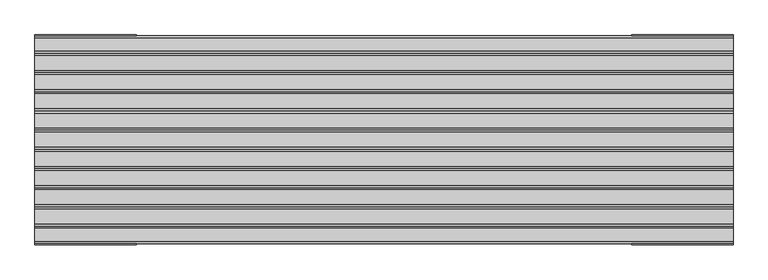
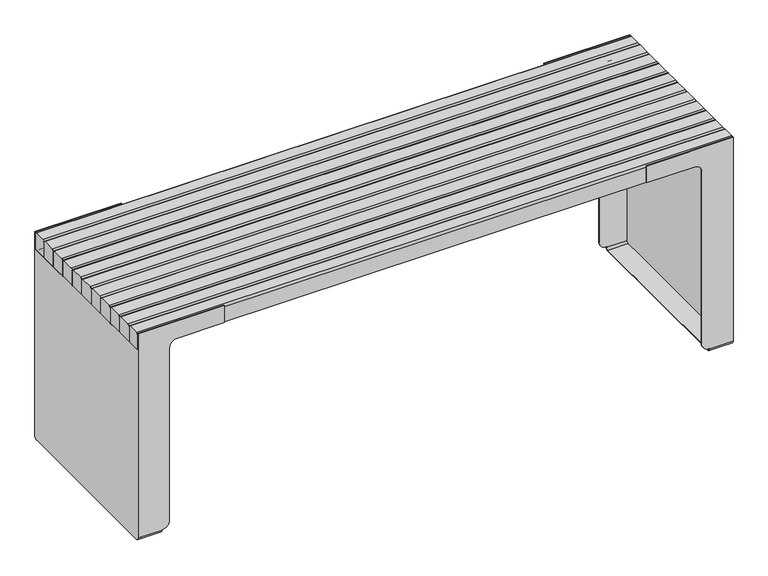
"""IFC4 building model written with IfcOpenShell, lengths in millimetres: furniture geometry, Roros Produkter - Nobel - Table - 32690 : Roros Produkter - Nobel - Table - 32690."""

from ifc_helpers import new_model, si_unit, point, frame, frame_2d, origin, place, context, project, spatial, polyline, circle_curve, trimmed, segment, composite_curve, outline, extrude, source, transform, mapped, element, save
from ifc_brep_helpers import plane_surface, cylinder_surface, revolved_surface, advanced_brep


def furniture_4ec1fb72(model_context):
    return source(origin(), model_context, "Body", "SolidModel", [
        advanced_brep(
        [(989.0000078, 297.5000232, 664.9999702), (989.0000078, 297.5000232, 9.6519473), (989.0000078, 290.5000232, 2.6519473), (989.0000078, -290.4999846, 2.6519473), (989.0000078, -297.4999846, 9.6519473), (989.0000078, -297.4999846, 664.9999702), (989.0000078, -290.4999846, 671.9999702), (989.0000078, 290.5000232, 671.9999702), (920.0000032, -290.4999846, 671.9999702), (920.0000032, 290.5000232, 671.9999702), (920.0000032, -297.4999846, 9.6519473), (920.0000032, -297.4999846, 11.2), (895.000003, -297.4999846, 36.2000001), (895.000003, -297.4999846, 649.9999688), (870.000003, -297.4999846, 674.9999688), (710.0000125, -297.4999846, 674.9999688), (710.0000125, -297.4999846, 734.9999765), (1000.0000075, -297.4999846, 734.9999765), (1000.0000075, -297.4999846, 674.9999688), (920.0000032, -297.4999846, 674.9999688), (920.0000032, -297.4999846, 664.9999702), (920.0000032, 290.5000232, 2.6519473), (920.0000032, -290.4999846, 2.6519473), (920.0000032, 297.5000232, 664.9999702), (920.0000032, 297.5000232, 674.9999688), (1000.0000075, 297.5000232, 674.9999688), (1000.0000075, 297.5000232, 734.9999765), (710.0000125, 297.5000232, 734.9999765), (710.0000125, 297.5000232, 674.9999688), (870.000003, 297.5000232, 674.9999688), (895.000003, 297.5000232, 649.9999688), (895.000003, 297.5000232, 36.2000001), (920.0000032, 297.5000232, 11.2), (920.0000032, 297.5000232, 9.6519473), (920.0000032, 300.5000217, 10.0), (920.0000032, 290.5000217, 0.0), (920.0000032, -290.4999945, 0.0), (920.0000032, -300.4999945, 10.0), (920.0000032, -300.4999945, 11.2), (920.0000032, 300.5000217, 11.2), (1000.0000075, -300.4999945, 10.0), (1000.0000075, -290.4999945, 0.0), (1000.0000075, 290.5000217, 0.0), (1000.0000075, 300.5000217, 10.0), (1000.0000075, 300.5000217, 734.9999765), (1000.0000075, -300.4999945, 734.9999765), (895.000003, 300.5000217, 36.2000001), (895.000003, 300.5000217, 649.9999688), (870.000003, 300.5000217, 674.9999688), (710.0000125, 300.5000217, 674.9999688), (710.0000125, 300.5000217, 734.9999765), (710.0000125, -300.4999945, 734.9999765), (710.0000125, -300.4999945, 674.9999688), (870.000003, -300.4999945, 674.9999688), (895.000003, -300.4999945, 649.9999688), (895.000003, -300.4999945, 36.2000001)],
        [
            (0, 1),
            (1, 2, circle_curve(frame((989.0000078, 290.5000232, 9.6519473), z_axis=(-1.0, 0.0, 0.0), x_axis=(0.0, -1.0, 0.0)), 7.0)),
            (2, 3),
            (3, 4, circle_curve(frame((989.0000078, -290.4999846, 9.6519473), z_axis=(-1.0, 0.0, 0.0), x_axis=(0.0, -1.0, 0.0)), 7.0)),
            (4, 5),
            (5, 6, circle_curve(frame((989.0000078, -290.4999846, 664.9999702), z_axis=(-1.0, 0.0, 0.0), x_axis=(0.0, -1.0, 0.0)), 7.0)),
            (6, 7),
            (7, 0, circle_curve(frame((989.0000078, 290.5000232, 664.9999702), z_axis=(-1.0, 0.0, 0.0), x_axis=(0.0, -1.0, 0.0)), 7.0)),
            (6, 8),
            (8, 9),
            (9, 7),
            (4, 10),
            (10, 11),
            (11, 12, circle_curve(frame((920.0000032, -297.4999846, 36.2000001), z_axis=(0.0, 1.0, 0.0), x_axis=(-1.0, 0.0, 0.0)), 25.0000002)),
            (12, 13),
            (13, 14, circle_curve(frame((870.000003, -297.4999846, 649.9999688), z_axis=(0.0, -1.0, 0.0), x_axis=(-1.0, 0.0, 0.0)), 25.0)),
            (14, 15),
            (15, 16),
            (16, 17),
            (17, 18),
            (18, 19),
            (19, 20),
            (20, 5),
            (2, 21),
            (21, 22),
            (22, 3),
            (0, 23),
            (23, 24),
            (24, 25),
            (25, 26),
            (26, 27),
            (27, 28),
            (28, 29),
            (29, 30, circle_curve(frame((870.000003, 297.5000232, 649.9999688), z_axis=(0.0, 1.0, 0.0), x_axis=(-1.0, 0.0, 0.0)), 25.0)),
            (30, 31),
            (31, 32, circle_curve(frame((920.0000032, 297.5000232, 36.2000001), z_axis=(0.0, -1.0, 0.0), x_axis=(-1.0, 0.0, 0.0)), 25.0000002)),
            (32, 33),
            (33, 1),
            (9, 23, circle_curve(frame((920.0000032, 290.5000232, 664.9999702), z_axis=(-1.0, 0.0, 0.0), x_axis=(0.0, -1.0, 0.0)), 7.0)),
            (20, 8, circle_curve(frame((920.0000032, -290.4999846, 664.9999702), z_axis=(-1.0, 0.0, 0.0), x_axis=(0.0, -1.0, 0.0)), 7.0)),
            (22, 10, circle_curve(frame((920.0000032, -290.4999846, 9.6519473), z_axis=(-1.0, 0.0, 0.0), x_axis=(0.0, -1.0, 0.0)), 7.0)),
            (33, 21, circle_curve(frame((920.0000032, 290.5000232, 9.6519473), z_axis=(-1.0, 0.0, 0.0), x_axis=(0.0, -1.0, 0.0)), 7.0)),
            (19, 24),
            (34, 35, circle_curve(frame((920.0000032, 290.5000217, 10.0), z_axis=(-1.0, 0.0, 0.0), x_axis=(0.0, -1.0, 0.0)), 10.0)),
            (35, 36),
            (36, 37, circle_curve(frame((920.0000032, -290.4999945, 10.0), z_axis=(-1.0, 0.0, 0.0), x_axis=(0.0, -1.0, 0.0)), 10.0)),
            (37, 38),
            (38, 11),
            (32, 39),
            (39, 34),
            (40, 41, circle_curve(frame((1000.0000075, -290.4999945, 10.0), z_axis=(1.0, 0.0, 0.0), x_axis=(0.0, -1.0, 0.0)), 10.0)),
            (41, 42),
            (42, 43, circle_curve(frame((1000.0000075, 290.5000217, 10.0), z_axis=(1.0, 0.0, 0.0), x_axis=(0.0, -1.0, 0.0)), 10.0)),
            (43, 44),
            (44, 26),
            (25, 18),
            (17, 45),
            (45, 40),
            (43, 34),
            (39, 46, circle_curve(frame((920.0000032, 300.5000217, 36.2000001), z_axis=(0.0, 1.0, 0.0), x_axis=(-1.0, 0.0, 0.0)), 25.0000002)),
            (46, 47),
            (47, 48, circle_curve(frame((870.000003, 300.5000217, 649.9999688), z_axis=(0.0, -1.0, 0.0), x_axis=(-1.0, 0.0, 0.0)), 25.0)),
            (48, 49),
            (49, 50),
            (50, 44),
            (45, 51),
            (51, 52),
            (52, 53),
            (53, 54, circle_curve(frame((870.000003, -300.4999945, 649.9999688), z_axis=(0.0, 1.0, 0.0), x_axis=(-1.0, 0.0, 0.0)), 25.0)),
            (54, 55),
            (55, 38, circle_curve(frame((920.0000032, -300.4999945, 36.2000001), z_axis=(0.0, -1.0, 0.0), x_axis=(-1.0, 0.0, 0.0)), 25.0000002)),
            (37, 40),
            (36, 41),
            (35, 42),
            (31, 46),
            (30, 47),
            (29, 48),
            (28, 49),
            (27, 50),
            (55, 12),
            (54, 13),
            (53, 14),
            (52, 15),
            (51, 16),
        ],
        [
            plane_surface(frame((989.0000078, 297.5000232, 11.3137092), z_axis=(-1.0, 0.0, 0.0), x_axis=(0.0, 0.0, 1.0))),
            plane_surface(frame((870.0000119, -290.4999846, 671.9999702), z_axis=(0.0, 0.0, -1.0), x_axis=(1.0, 0.0, 0.0))),
            plane_surface(frame((870.0000119, -297.4999846, 9.6519473), z_axis=(0.0, 1.0, 0.0), x_axis=(1.0, 0.0, 0.0))),
            plane_surface(frame((870.0000119, 290.5000232, 2.6519473), z_axis=(0.0, 0.0, 1.0), x_axis=(1.0, 0.0, 0.0))),
            plane_surface(frame((870.0000119, 297.5000232, 664.9999702), z_axis=(0.0, -1.0, 0.0), x_axis=(1.0, 0.0, 0.0))),
            revolved_surface(polyline([(920.0000032, 283.5000232, 664.9999702), (989.0000078, 283.5000232, 664.9999702)]), (989.0000078, 290.5000232, 664.9999702), (-1.0, 0.0, 0.0)),
            revolved_surface(polyline([(920.0000032, -297.4999846, 664.9999702), (989.0000078, -297.4999846, 664.9999702)]), (989.0000078, -290.4999846, 664.9999702), (-1.0, 0.0, 0.0)),
            revolved_surface(polyline([(920.0000032, -297.4999846, 9.6519473), (989.0000078, -297.4999846, 9.6519473)]), (989.0000078, -290.4999846, 9.6519473), (-1.0, 0.0, 0.0)),
            revolved_surface(polyline([(920.0000032, 283.5000232, 9.6519473), (989.0000078, 283.5000232, 9.6519473)]), (989.0000078, 290.5000232, 9.6519473), (-1.0, 0.0, 0.0)),
            plane_surface(frame((920.0000032, 280.5000217, 10.0), z_axis=(-1.0, 0.0, 0.0), x_axis=(0.0, 0.0, 1.0))),
            plane_surface(frame((1000.0000075, 280.5000217, 10.0), z_axis=(1.0, 0.0, 0.0), x_axis=(0.0, 0.0, -1.0))),
            plane_surface(frame((920.0000032, 300.5000217, 674.9999688), z_axis=(0.0, 1.0, 0.0), x_axis=(1.0, 0.0, 0.0))),
            plane_surface(frame((920.0000032, -300.4999945, 674.9999688), z_axis=(0.0, 0.0, 1.0), x_axis=(1.0, 0.0, 0.0))),
            plane_surface(frame((920.0000032, -300.4999945, 10.0), z_axis=(0.0, -1.0, 0.0), x_axis=(1.0, 0.0, 0.0))),
            cylinder_surface(frame((1000.0000075, -290.4999945, 10.0), z_axis=(-1.0, 0.0, 0.0), x_axis=(0.0, -1.0, 0.0)), 10.0),
            plane_surface(frame((920.0000032, 290.5000217, 0.0), z_axis=(0.0, 0.0, -1.0), x_axis=(1.0, 0.0, 0.0))),
            cylinder_surface(frame((1000.0000075, 290.5000217, 10.0), z_axis=(-1.0, 0.0, 0.0), x_axis=(0.0, -1.0, 0.0)), 10.0),
            cylinder_surface(frame((920.0000032, 297.5000118, 36.2000001), z_axis=(0.0, 1.0, 0.0), x_axis=(-1.0, 0.0, 0.0)), 25.0000002),
            plane_surface(frame((895.000003, 300.5000217, 36.2000001), z_axis=(-1.0, 0.0, 0.0), x_axis=(0.0, -1.0, 0.0))),
            revolved_surface(polyline([(845.000003, 297.5000232, 649.9999688), (845.000003, 300.5000217, 649.9999688)]), (870.000003, 297.5000118, 649.9999688), (0.0, -1.0, 0.0)),
            plane_surface(frame((870.000003, 300.5000217, 674.9999688), z_axis=(0.0, 0.0, -1.0), x_axis=(0.0, -1.0, 0.0))),
            plane_surface(frame((710.0000125, 300.5000217, 674.9999688), z_axis=(-1.0, 0.0, 0.0), x_axis=(0.0, -1.0, 0.0))),
            plane_surface(frame((710.0000125, 300.5000217, 734.9999765), z_axis=(0.0, 0.0, 1.0), x_axis=(0.0, -1.0, 0.0))),
            cylinder_surface(frame((920.0000032, -297.4999846, 36.2000001), z_axis=(0.0, -1.0, 0.0), x_axis=(-1.0, 0.0, 0.0)), 25.0000002),
            plane_surface(frame((895.000003, -300.4999945, 649.9999688), z_axis=(-1.0, 0.0, 0.0), x_axis=(0.0, 1.0, 0.0))),
            revolved_surface(polyline([(845.000003, -297.4999846, 649.9999688), (845.000003, -300.4999945, 649.9999688)]), (870.000003, -297.4999846, 649.9999688), (0.0, 1.0, 0.0)),
            plane_surface(frame((710.0000125, -300.4999945, 674.9999688), z_axis=(0.0, 0.0, -1.0), x_axis=(0.0, 1.0, 0.0))),
            plane_surface(frame((710.0000125, -300.4999945, 734.9999765), z_axis=(-1.0, 0.0, 0.0), x_axis=(0.0, 1.0, 0.0))),
            plane_surface(frame((1000.0000075, -300.4999945, 734.9999765), z_axis=(0.0, 0.0, 1.0), x_axis=(0.0, 1.0, 0.0))),
        ],
        [
            (0, [[1, 2, 3, 4, 5, 6, 7, 8]]),
            (1, [[-7, 9, 10, 11]]),
            (2, [[-5, 12, 13, 14, 15, 16, 17, 18, 19, 20, 21, 22, 23]]),
            (3, [[-3, 24, 25, 26]]),
            (4, [[-1, 27, 28, 29, 30, 31, 32, 33, 34, 35, 36, 37, 38]]),
            (5, [[-8, -11, 39, -27]]),
            (6, [[-6, -23, 40, -9]]),
            (7, [[-4, -26, 41, -12]]),
            (8, [[-2, -38, 42, -24]]),
            (9, [[-10, -40, -22, 43, -28, -39]]),
            (9, [[44, 45, 46, 47, 48, -13, -41, -25, -42, -37, 49, 50]]),
            (10, [[51, 52, 53, 54, 55, -30, 56, -20, 57, 58]]),
            (11, [[59, -50, 60, 61, 62, 63, 64, 65, -54]]),
            (12, [[-29, -43, -21, -56]]),
            (13, [[-58, 66, 67, 68, 69, 70, 71, -47, 72]]),
            (14, [[-46, 73, -51, -72]]),
            (15, [[-45, 74, -52, -73]]),
            (16, [[-44, -59, -53, -74]]),
            (17, [[-60, -49, -36, 75]]),
            (18, [[-61, -75, -35, 76]]),
            (19, [[-62, -76, -34, 77]]),
            (20, [[-63, -77, -33, 78]]),
            (21, [[-64, -78, -32, 79]]),
            (22, [[-65, -79, -31, -55]]),
            (23, [[-71, 80, -14, -48]]),
            (24, [[-70, 81, -15, -80]]),
            (25, [[-69, 82, -16, -81]]),
            (26, [[-68, 83, -17, -82]]),
            (27, [[-67, 84, -18, -83]]),
            (28, [[-66, -57, -19, -84]]),
        ],
    ),
        advanced_brep(
        [(-895.000003, -300.4999945, 36.2000001), (-920.0000032, -300.4999945, 11.2), (-920.0000032, -297.4999846, 11.2), (-895.000003, -297.4999846, 36.2000001), (-895.000003, -300.4999945, 649.9999688), (-895.000003, -297.4999846, 649.9999688), (-870.000003, -300.4999945, 674.9999688), (-870.000003, -297.4999846, 674.9999688), (-710.0000125, -300.4999945, 674.9999688), (-710.0000125, -297.4999846, 674.9999688), (-710.0000125, -300.4999945, 734.9999765), (-710.0000125, -297.4999846, 734.9999765), (-1000.0000075, -300.4999945, 734.9999765), (-1000.0000075, -297.4999846, 734.9999765), (-920.0000032, -300.4999945, 10.0), (-920.0000032, -290.4999945, 0.0), (-920.0000032, 290.5000217, 0.0), (-920.0000032, 300.5000217, 10.0), (-920.0000032, 300.5000217, 11.2), (-920.0000032, 297.5000232, 11.2), (-920.0000032, 297.5000232, 9.6519473), (-920.0000032, 290.5000232, 2.6519473), (-920.0000032, -290.4999846, 2.6519473), (-920.0000032, -297.4999846, 9.6519473), (-920.0000032, -290.4999846, 671.9999702), (-920.0000032, 290.5000232, 671.9999702), (-920.0000032, 297.5000232, 664.9999702), (-920.0000032, 297.5000118, 674.9999688), (-920.0000032, -297.4999846, 674.9999688), (-920.0000032, -297.4999846, 664.9999702), (-1000.0000075, 300.5000217, 10.0), (-1000.0000075, 290.5000217, 0.0), (-1000.0000075, -290.4999945, 0.0), (-1000.0000075, -300.4999945, 10.0), (-1000.0000075, -297.4999846, 674.9999688), (-1000.0000075, 297.5000118, 674.9999688), (-1000.0000075, 297.5000118, 734.9999765), (-1000.0000075, 300.5000217, 734.9999765), (-710.0000125, 300.5000217, 734.9999765), (-710.0000125, 300.5000217, 674.9999688), (-870.000003, 300.5000217, 674.9999688), (-895.000003, 300.5000217, 649.9999688), (-895.000003, 300.5000217, 36.2000001), (-989.0000078, 297.5000232, 664.9999702), (-989.0000078, 290.5000232, 671.9999702), (-989.0000078, -290.4999846, 671.9999702), (-989.0000078, -297.4999846, 664.9999702), (-989.0000078, -297.4999846, 9.6519473), (-989.0000078, -290.4999846, 2.6519473), (-989.0000078, 290.5000232, 2.6519473), (-989.0000078, 297.5000232, 9.6519473), (-895.000003, 297.5000232, 36.2000001), (-895.000003, 297.5000232, 649.9999688), (-870.000003, 297.5000232, 674.9999688), (-710.0000125, 297.5000232, 674.9999688), (-710.0000125, 297.5000232, 734.9999765)],
        [
            (0, 1, circle_curve(frame((-920.0000032, -300.4999945, 36.2000001), z_axis=(0.0, 1.0, 0.0), x_axis=(1.0, 0.0, 0.0)), 25.0000002)),
            (1, 2),
            (2, 3, circle_curve(frame((-920.0000032, -297.4999846, 36.2000001), z_axis=(0.0, -1.0, 0.0), x_axis=(1.0, 0.0, 0.0)), 25.0000002)),
            (3, 0),
            (4, 0),
            (3, 5),
            (5, 4),
            (6, 4, circle_curve(frame((-870.000003, -300.4999945, 649.9999688), z_axis=(0.0, -1.0, 0.0), x_axis=(1.0, 0.0, 0.0)), 25.0)),
            (5, 7, circle_curve(frame((-870.000003, -297.4999846, 649.9999688), z_axis=(0.0, 1.0, 0.0), x_axis=(1.0, 0.0, 0.0)), 25.0)),
            (7, 6),
            (8, 6),
            (7, 9),
            (9, 8),
            (10, 8),
            (9, 11),
            (11, 10),
            (12, 10),
            (11, 13),
            (13, 12),
            (14, 15, circle_curve(frame((-920.0000032, -290.4999945, 10.0), z_axis=(1.0, 0.0, 0.0), x_axis=(0.0, -1.0, 0.0)), 10.0)),
            (15, 16),
            (16, 17, circle_curve(frame((-920.0000032, 290.5000217, 10.0), z_axis=(1.0, 0.0, 0.0), x_axis=(0.0, -1.0, 0.0)), 10.0)),
            (17, 18),
            (18, 19),
            (19, 20),
            (20, 21, circle_curve(frame((-920.0000032, 290.5000232, 9.6519473), z_axis=(-1.0, 0.0, 0.0), x_axis=(0.0, -1.0, 0.0)), 7.0)),
            (21, 22),
            (22, 23, circle_curve(frame((-920.0000032, -290.4999846, 9.6519473), z_axis=(-1.0, 0.0, 0.0), x_axis=(0.0, -1.0, 0.0)), 7.0)),
            (23, 2),
            (1, 14),
            (24, 25),
            (25, 26, circle_curve(frame((-920.0000032, 290.5000232, 664.9999702), z_axis=(-1.0, 0.0, 0.0), x_axis=(0.0, -1.0, 0.0)), 7.0)),
            (26, 27),
            (27, 28),
            (28, 29),
            (29, 24, circle_curve(frame((-920.0000032, -290.4999846, 664.9999702), z_axis=(-1.0, 0.0, 0.0), x_axis=(0.0, -1.0, 0.0)), 7.0)),
            (30, 31, circle_curve(frame((-1000.0000075, 290.5000217, 10.0), z_axis=(-1.0, 0.0, 0.0), x_axis=(0.0, -1.0, 0.0)), 10.0)),
            (31, 32),
            (32, 33, circle_curve(frame((-1000.0000075, -290.4999945, 10.0), z_axis=(-1.0, 0.0, 0.0), x_axis=(0.0, -1.0, 0.0)), 10.0)),
            (33, 12),
            (13, 34),
            (34, 35),
            (35, 36),
            (36, 37),
            (37, 30),
            (37, 38),
            (38, 39),
            (39, 40),
            (40, 41, circle_curve(frame((-870.000003, 300.5000217, 649.9999688), z_axis=(0.0, -1.0, 0.0), x_axis=(1.0, 0.0, 0.0)), 25.0)),
            (41, 42),
            (42, 18, circle_curve(frame((-920.0000032, 300.5000217, 36.2000001), z_axis=(0.0, 1.0, 0.0), x_axis=(1.0, 0.0, 0.0)), 25.0000002)),
            (17, 30),
            (34, 28),
            (27, 35),
            (33, 14),
            (32, 15),
            (31, 16),
            (43, 44, circle_curve(frame((-989.0000078, 290.5000232, 664.9999702), z_axis=(1.0, 0.0, 0.0), x_axis=(0.0, -1.0, 0.0)), 7.0)),
            (44, 45),
            (45, 46, circle_curve(frame((-989.0000078, -290.4999846, 664.9999702), z_axis=(1.0, 0.0, 0.0), x_axis=(0.0, -1.0, 0.0)), 7.0)),
            (46, 47),
            (47, 48, circle_curve(frame((-989.0000078, -290.4999846, 9.6519473), z_axis=(1.0, 0.0, 0.0), x_axis=(0.0, -1.0, 0.0)), 7.0)),
            (48, 49),
            (49, 50, circle_curve(frame((-989.0000078, 290.5000232, 9.6519473), z_axis=(1.0, 0.0, 0.0), x_axis=(0.0, -1.0, 0.0)), 7.0)),
            (50, 43),
            (44, 25),
            (24, 45),
            (46, 29),
            (23, 47),
            (48, 22),
            (21, 49),
            (50, 20),
            (19, 51, circle_curve(frame((-920.0000032, 297.5000232, 36.2000001), z_axis=(0.0, -1.0, 0.0), x_axis=(1.0, 0.0, 0.0)), 25.0000002)),
            (51, 52),
            (52, 53, circle_curve(frame((-870.000003, 297.5000232, 649.9999688), z_axis=(0.0, 1.0, 0.0), x_axis=(1.0, 0.0, 0.0)), 25.0)),
            (53, 54),
            (54, 55),
            (55, 36),
            (26, 43),
            (42, 51),
            (41, 52),
            (40, 53),
            (39, 54),
            (38, 55),
        ],
        [
            cylinder_surface(frame((-920.0000032, -297.4999846, 36.2000001), z_axis=(0.0, -1.0, 0.0), x_axis=(1.0, 0.0, 0.0)), 25.0000002),
            plane_surface(frame((-895.000003, -300.4999945, 36.2000001), z_axis=(1.0, 0.0, 0.0), x_axis=(0.0, 1.0, 0.0))),
            revolved_surface(polyline([(-845.000003, -297.4999846, 649.9999688), (-845.000003, -300.4999945, 649.9999688)]), (-870.000003, -297.4999846, 649.9999688), (0.0, 1.0, 0.0)),
            plane_surface(frame((-870.000003, -300.4999945, 674.9999688), z_axis=(0.0, 0.0, -1.0), x_axis=(0.0, 1.0, 0.0))),
            plane_surface(frame((-710.0000125, -300.4999945, 674.9999688), z_axis=(1.0, 0.0, 0.0), x_axis=(0.0, 1.0, 0.0))),
            plane_surface(frame((-710.0000125, -300.4999945, 734.9999765), z_axis=(0.0, 0.0, 1.0), x_axis=(0.0, 1.0, 0.0))),
            plane_surface(frame((-920.0000032, 300.5000217, 375.0000029), z_axis=(1.0, 0.0, 0.0), x_axis=(0.0, 0.0, 1.0))),
            plane_surface(frame((-1000.0000075, 300.5000217, 375.0000029), z_axis=(-1.0, 0.0, 0.0), x_axis=(0.0, 0.0, -1.0))),
            plane_surface(frame((-920.0000032, 300.5000217, 10.0), z_axis=(0.0, 1.0, 0.0), x_axis=(-1.0, 0.0, 0.0))),
            plane_surface(frame((-920.0000032, 300.5000217, 674.9999688), z_axis=(0.0, 0.0, 1.0), x_axis=(-1.0, 0.0, 0.0))),
            plane_surface(frame((-920.0000032, -300.4999945, 674.9999688), z_axis=(0.0, -1.0, 0.0), x_axis=(-1.0, 0.0, 0.0))),
            cylinder_surface(frame((-1000.0000075, -290.4999945, 10.0), z_axis=(1.0, 0.0, 0.0), x_axis=(0.0, -1.0, 0.0)), 10.0),
            plane_surface(frame((-920.0000032, -290.4999945, 0.0), z_axis=(0.0, 0.0, -1.0), x_axis=(-1.0, 0.0, 0.0))),
            cylinder_surface(frame((-1000.0000075, 290.5000217, 10.0), z_axis=(1.0, 0.0, 0.0), x_axis=(0.0, -1.0, 0.0)), 10.0),
            plane_surface(frame((-989.0000078, 283.5000232, 664.9999702), z_axis=(1.0, 0.0, 0.0), x_axis=(0.0, 0.0, 1.0))),
            plane_surface(frame((-870.0000119, 290.5000232, 671.9999702), z_axis=(0.0, 0.0, -1.0), x_axis=(-1.0, 0.0, 0.0))),
            plane_surface(frame((-870.0000119, -297.4999846, 664.9999702), z_axis=(0.0, 1.0, 0.0), x_axis=(-1.0, 0.0, 0.0))),
            plane_surface(frame((-870.0000119, -290.4999846, 2.6519473), z_axis=(0.0, 0.0, 1.0), x_axis=(-1.0, 0.0, 0.0))),
            plane_surface(frame((-870.0000119, 297.5000232, 9.6519473), z_axis=(0.0, -1.0, 0.0), x_axis=(-1.0, 0.0, 0.0))),
            revolved_surface(polyline([(-920.0000032, 283.5000232, 664.9999702), (-989.0000078, 283.5000232, 664.9999702)]), (-989.0000078, 290.5000232, 664.9999702), (1.0, 0.0, 0.0)),
            revolved_surface(polyline([(-920.0000032, -297.4999846, 664.9999702), (-989.0000078, -297.4999846, 664.9999702)]), (-989.0000078, -290.4999846, 664.9999702), (1.0, 0.0, 0.0)),
            revolved_surface(polyline([(-920.0000032, -297.4999846, 9.6519473), (-989.0000078, -297.4999846, 9.6519473)]), (-989.0000078, -290.4999846, 9.6519473), (1.0, 0.0, 0.0)),
            revolved_surface(polyline([(-920.0000032, 283.5000232, 9.6519473), (-989.0000078, 283.5000232, 9.6519473)]), (-989.0000078, 290.5000232, 9.6519473), (1.0, 0.0, 0.0)),
            cylinder_surface(frame((-920.0000032, 297.5000118, 36.2000001), z_axis=(0.0, 1.0, 0.0), x_axis=(1.0, 0.0, 0.0)), 25.0000002),
            plane_surface(frame((-895.000003, 300.5000217, 649.9999688), z_axis=(1.0, 0.0, 0.0), x_axis=(0.0, -1.0, 0.0))),
            revolved_surface(polyline([(-845.000003, 297.5000232, 649.9999688), (-845.000003, 300.5000217, 649.9999688)]), (-870.000003, 297.5000118, 649.9999688), (0.0, -1.0, 0.0)),
            plane_surface(frame((-710.0000125, 300.5000217, 674.9999688), z_axis=(0.0, 0.0, -1.0), x_axis=(0.0, -1.0, 0.0))),
            plane_surface(frame((-710.0000125, 300.5000217, 734.9999765), z_axis=(1.0, 0.0, 0.0), x_axis=(0.0, -1.0, 0.0))),
            plane_surface(frame((-1000.0000075, 300.5000217, 734.9999765), z_axis=(0.0, 0.0, 1.0), x_axis=(0.0, -1.0, 0.0))),
        ],
        [
            (0, [[1, 2, 3, 4]]),
            (1, [[5, -4, 6, 7]]),
            (2, [[8, -7, 9, 10]]),
            (3, [[11, -10, 12, 13]]),
            (4, [[14, -13, 15, 16]]),
            (5, [[17, -16, 18, 19]]),
            (6, [[20, 21, 22, 23, 24, 25, 26, 27, 28, 29, -2, 30]]),
            (6, [[31, 32, 33, 34, 35, 36]]),
            (7, [[37, 38, 39, 40, -19, 41, 42, 43, 44, 45]]),
            (8, [[-45, 46, 47, 48, 49, 50, 51, -23, 52]]),
            (9, [[53, -34, 54, -42]]),
            (10, [[55, -30, -1, -5, -8, -11, -14, -17, -40]]),
            (11, [[-20, -55, -39, 56]]),
            (12, [[-21, -56, -38, 57]]),
            (13, [[-22, -57, -37, -52]]),
            (14, [[58, 59, 60, 61, 62, 63, 64, 65]]),
            (15, [[-59, 66, -31, 67]]),
            (16, [[-61, 68, -35, -53, -41, -18, -15, -12, -9, -6, -3, -29, 69]]),
            (17, [[-63, 70, -27, 71]]),
            (18, [[-65, 72, -25, 73, 74, 75, 76, 77, 78, -43, -54, -33, 79]]),
            (19, [[-58, -79, -32, -66]]),
            (20, [[-60, -67, -36, -68]]),
            (21, [[-62, -69, -28, -70]]),
            (22, [[-64, -71, -26, -72]]),
            (23, [[-51, 80, -73, -24]]),
            (24, [[-50, 81, -74, -80]]),
            (25, [[-49, 82, -75, -81]]),
            (26, [[-48, 83, -76, -82]]),
            (27, [[-47, 84, -77, -83]]),
            (28, [[-46, -44, -78, -84]]),
        ],
    ),
        extrude(outline(composite_curve([segment(trimmed(circle_curve(frame_2d((88.4999913, 728.9999765)), 6.0), [point((82.4999913, 728.9999765))], [point((88.4999913, 734.9999765))], False, "CARTESIAN"), True, "CONTINUOUS"), segment(polyline([(88.4999913, 734.9999765), (131.4849653, 734.9999765)]), True, "CONTINUOUS"), segment(trimmed(circle_curve(frame_2d((131.4849653, 728.9849465)), 6.01503), [point((131.4849653, 734.9999765))], [point((137.4999954, 728.9849465))], False, "CARTESIAN"), True, "CONTINUOUS"), segment(polyline([(137.4999954, 728.9849465), (137.4999954, 674.9999688), (82.4999913, 674.9999688), (82.4999913, 728.9999765)]), True, "CONTINUOUS")], self_intersect=False)), frame((-1000.0000075, 0.0, 0.0), z_axis=(1.0, 0.0, 0.0), x_axis=(0.0, 1.0, 0.0)), (0.0, 0.0, 1.0), 2000.0000153),
        extrude(outline(composite_curve([segment(trimmed(circle_curve(frame_2d((-21.4999963, 728.9999765)), 6.0), [point((-27.4999963, 728.9999765))], [point((-21.4999963, 734.9999765))], False, "CARTESIAN"), True, "CONTINUOUS"), segment(polyline([(-21.4999963, 734.9999765), (21.4849663, 734.9999765)]), True, "CONTINUOUS"), segment(trimmed(circle_curve(frame_2d((21.4849663, 728.9849465)), 6.01503), [point((21.4849663, 734.9999765))], [point((27.4999963, 728.9849465))], False, "CARTESIAN"), True, "CONTINUOUS"), segment(polyline([(27.4999963, 728.9849465), (27.4999963, 674.9999688), (-27.4999963, 674.9999688), (-27.4999963, 728.9999765)]), True, "CONTINUOUS")], self_intersect=False)), frame((-1000.0000075, 0.0, 0.0), z_axis=(1.0, 0.0, 0.0), x_axis=(0.0, 1.0, 0.0)), (0.0, 0.0, 1.0), 2000.0000153),
        extrude(outline(composite_curve([segment(trimmed(circle_curve(frame_2d((-131.4999954, 728.9999765)), 6.0), [point((-137.4999954, 728.9999765))], [point((-131.4999954, 734.9999765))], False, "CARTESIAN"), True, "CONTINUOUS"), segment(polyline([(-131.4999954, 734.9999765), (-88.5150214, 734.9999765)]), True, "CONTINUOUS"), segment(trimmed(circle_curve(frame_2d((-88.5150214, 728.9849465)), 6.01503), [point((-88.5150214, 734.9999765))], [point((-82.4999913, 728.9849465))], False, "CARTESIAN"), True, "CONTINUOUS"), segment(polyline([(-82.4999913, 728.9849465), (-82.4999913, 674.9999688), (-137.4999954, 674.9999688), (-137.4999954, 728.9999765)]), True, "CONTINUOUS")], self_intersect=False)), frame((-1000.0000075, 0.0, 0.0), z_axis=(1.0, 0.0, 0.0), x_axis=(0.0, 1.0, 0.0)), (0.0, 0.0, 1.0), 2000.0000153),
        extrude(outline(composite_curve([segment(trimmed(circle_curve(frame_2d((-241.499983, 728.9999765)), 6.0), [point((-247.499983, 728.9999765))], [point((-241.499983, 734.9999765))], False, "CARTESIAN"), True, "CONTINUOUS"), segment(polyline([(-241.499983, 734.9999765), (-198.515009, 734.9999765)]), True, "CONTINUOUS"), segment(trimmed(circle_curve(frame_2d((-198.515009, 728.9849465)), 6.01503), [point((-198.515009, 734.9999765))], [point((-192.499979, 728.9849465))], False, "CARTESIAN"), True, "CONTINUOUS"), segment(polyline([(-192.499979, 728.9849465), (-192.499979, 674.9999688), (-247.499983, 674.9999688), (-247.499983, 728.9999765)]), True, "CONTINUOUS")], self_intersect=False)), frame((-1000.0000075, 0.0, 0.0), z_axis=(1.0, 0.0, 0.0), x_axis=(0.0, 1.0, 0.0)), (0.0, 0.0, 1.0), 2000.0000153),
        extrude(outline(composite_curve([segment(polyline([(247.499983, 728.9999765), (247.499983, 674.9999688), (192.499979, 674.9999688), (192.499979, 728.9849465)]), True, "CONTINUOUS"), segment(trimmed(circle_curve(frame_2d((198.515009, 728.9849465)), 6.01503), [point((192.499979, 728.9849465))], [point((198.515009, 734.9999765))], False, "CARTESIAN"), True, "CONTINUOUS"), segment(polyline([(198.515009, 734.9999765), (241.499983, 734.9999765)]), True, "CONTINUOUS"), segment(trimmed(circle_curve(frame_2d((241.499983, 728.9999765)), 6.0), [point((241.499983, 734.9999765))], [point((247.499983, 728.9999765))], False, "CARTESIAN"), True, "CONTINUOUS")], self_intersect=False)), frame((-1000.0000075, 0.0, 0.0), z_axis=(1.0, 0.0, 0.0), x_axis=(0.0, 1.0, 0.0)), (0.0, 0.0, 1.0), 2000.0000153),
        extrude(outline(composite_curve([segment(trimmed(circle_curve(frame_2d((76.4999913, 728.9999765)), 6.0), [point((76.4999913, 734.9999765))], [point((82.4999913, 728.9999765))], False, "CARTESIAN"), True, "CONTINUOUS"), segment(polyline([(82.4999913, 728.9999765), (82.4999913, 674.9999688), (27.4999963, 674.9999688), (27.4999963, 728.9999765)]), True, "CONTINUOUS"), segment(trimmed(circle_curve(frame_2d((33.4999963, 728.9999765)), 6.0), [point((27.4999963, 728.9999765))], [point((33.4999963, 734.9999765))], False, "CARTESIAN"), True, "CONTINUOUS"), segment(polyline([(33.4999963, 734.9999765), (76.4999913, 734.9999765)]), True, "CONTINUOUS")], self_intersect=False)), frame((-1000.0000075, 0.0, 0.0), z_axis=(1.0, 0.0, 0.0), x_axis=(0.0, 1.0, 0.0)), (0.0, 0.0, 1.0), 2000.0000153),
        extrude(outline(composite_curve([segment(polyline([(-27.4999963, 728.9999765), (-27.4999963, 674.9999688), (-82.4999913, 674.9999688), (-82.4999913, 728.9999765)]), True, "CONTINUOUS"), segment(trimmed(circle_curve(frame_2d((-76.4999913, 728.9999765)), 6.0), [point((-82.4999913, 728.9999765))], [point((-76.4999913, 734.9999765))], False, "CARTESIAN"), True, "CONTINUOUS"), segment(polyline([(-76.4999913, 734.9999765), (-33.4999963, 734.9999765)]), True, "CONTINUOUS"), segment(trimmed(circle_curve(frame_2d((-33.4999963, 728.9999765)), 6.0), [point((-33.4999963, 734.9999765))], [point((-27.4999963, 728.9999765))], False, "CARTESIAN"), True, "CONTINUOUS")], self_intersect=False)), frame((-1000.0000075, 0.0, 0.0), z_axis=(1.0, 0.0, 0.0), x_axis=(0.0, 1.0, 0.0)), (0.0, 0.0, 1.0), 2000.0000153),
        extrude(outline(composite_curve([segment(polyline([(-247.4999842, 728.9999765), (-247.4999842, 674.9999688), (-297.4999846, 674.9999688), (-297.4999846, 728.9999765)]), True, "CONTINUOUS"), segment(trimmed(circle_curve(frame_2d((-291.4999846, 728.9999765)), 6.0), [point((-297.4999846, 728.9999765))], [point((-291.4999846, 734.9999765))], False, "CARTESIAN"), True, "CONTINUOUS"), segment(polyline([(-291.4999846, 734.9999765), (-253.4999842, 734.9999765)]), True, "CONTINUOUS"), segment(trimmed(circle_curve(frame_2d((-253.4999842, 728.9999765)), 6.0), [point((-253.4999842, 734.9999765))], [point((-247.4999842, 728.9999765))], False, "CARTESIAN"), True, "CONTINUOUS")], self_intersect=False)), frame((-1000.0000075, 0.0, 0.0), z_axis=(1.0, 0.0, 0.0), x_axis=(0.0, 1.0, 0.0)), (0.0, 0.0, 1.0), 2000.0000153),
        extrude(outline(composite_curve([segment(polyline([(-137.499984, 728.9999765), (-137.499984, 674.9999688), (-192.499979, 674.9999688), (-192.499979, 728.9999765)]), True, "CONTINUOUS"), segment(trimmed(circle_curve(frame_2d((-186.499979, 728.9999765)), 6.0), [point((-192.499979, 728.9999765))], [point((-186.499979, 734.9999765))], False, "CARTESIAN"), True, "CONTINUOUS"), segment(polyline([(-186.499979, 734.9999765), (-143.499984, 734.9999765)]), True, "CONTINUOUS"), segment(trimmed(circle_curve(frame_2d((-143.499984, 728.9999765)), 6.0), [point((-143.499984, 734.9999765))], [point((-137.499984, 728.9999765))], False, "CARTESIAN"), True, "CONTINUOUS")], self_intersect=False)), frame((-1000.0000075, 0.0, 0.0), z_axis=(1.0, 0.0, 0.0), x_axis=(0.0, 1.0, 0.0)), (0.0, 0.0, 1.0), 2000.0000153),
        extrude(outline(composite_curve([segment(trimmed(circle_curve(frame_2d((253.4999842, 728.9999765)), 6.0), [point((247.4999842, 728.9999765))], [point((253.4999842, 734.9999765))], False, "CARTESIAN"), True, "CONTINUOUS"), segment(polyline([(253.4999842, 734.9999765), (291.4999846, 734.9999765)]), True, "CONTINUOUS"), segment(trimmed(circle_curve(frame_2d((291.4999846, 728.9999765)), 6.0), [point((291.4999846, 734.9999765))], [point((297.4999846, 728.9999765))], False, "CARTESIAN"), True, "CONTINUOUS"), segment(polyline([(297.4999846, 728.9999765), (297.4999846, 674.9999688), (247.4999842, 674.9999688), (247.4999842, 728.9999765)]), True, "CONTINUOUS")], self_intersect=False)), frame((-1000.0000075, 0.0, 0.0), z_axis=(1.0, 0.0, 0.0), x_axis=(0.0, 1.0, 0.0)), (0.0, 0.0, 1.0), 2000.0000153),
        extrude(outline(composite_curve([segment(trimmed(circle_curve(frame_2d((143.499984, 728.9999765)), 6.0), [point((137.499984, 728.9999765))], [point((143.499984, 734.9999765))], False, "CARTESIAN"), True, "CONTINUOUS"), segment(polyline([(143.499984, 734.9999765), (186.499979, 734.9999765)]), True, "CONTINUOUS"), segment(trimmed(circle_curve(frame_2d((186.499979, 728.9999765)), 6.0), [point((186.499979, 734.9999765))], [point((192.499979, 728.9999765))], False, "CARTESIAN"), True, "CONTINUOUS"), segment(polyline([(192.499979, 728.9999765), (192.499979, 674.9999688), (137.499984, 674.9999688), (137.499984, 728.9999765)]), True, "CONTINUOUS")], self_intersect=False)), frame((-1000.0000075, 0.0, 0.0), z_axis=(1.0, 0.0, 0.0), x_axis=(0.0, 1.0, 0.0)), (0.0, 0.0, 1.0), 2000.0000153),
    ])


if __name__ == "__main__":
    model = new_model("IFC4")
    model_context = context("Model", 3, world=origin())
    ifc_project = project(units=[si_unit("LENGTHUNIT", "METRE", prefix="MILLI")], contexts=[model_context])
    site = spatial("IfcSite", under=ifc_project)
    building = spatial("IfcBuilding", under=site)
    placement = place(None, origin())
    furniture_shape = furniture_4ec1fb72(model_context)
    element("IfcFurniture", 1, ObjectType="Roros Produkter - Nobel - Table - 32690 : Roros Produkter - Nobel - Table - 32690", at=placement, inside=building, context=model_context, shape_type="MappedRepresentation", body=[
        mapped(furniture_shape, transform((0.0, 0.0, 0.0), x_axis=(1.0, 0.0, 0.0), y_axis=(0.0, 1.0, 0.0), z_axis=(0.0, 0.0, 1.0))),
    ])
    save(model, "model.ifc")
